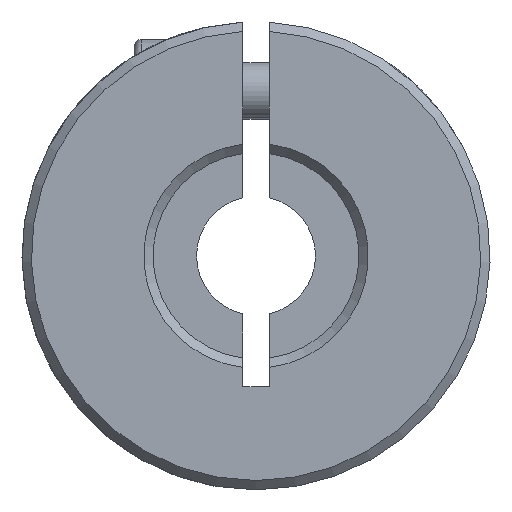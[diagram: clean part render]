
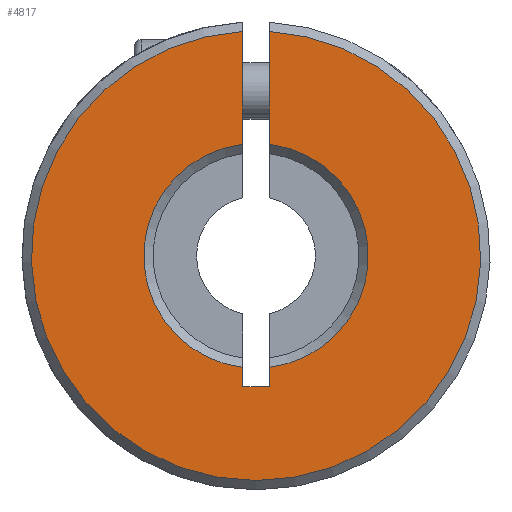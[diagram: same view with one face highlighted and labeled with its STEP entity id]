
A CAD part, front view. The second image highlights one B-rep face of the part: STEP entity #4817.
In plain terms, the highlighted planar face has unit normal (0, -1, 0).
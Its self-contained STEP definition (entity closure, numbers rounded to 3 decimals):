
#116 = CIRCLE ( 'NONE', #288, 6. ) ;
#119 = EDGE_CURVE ( 'NONE', #2894, #5415, #4652, .T. ) ;
#279 = ORIENTED_EDGE ( 'NONE', *, *, #5372, .T. ) ;
#288 = AXIS2_PLACEMENT_3D ( 'NONE', #2408, #2434, #2145 ) ;
#391 = CARTESIAN_POINT ( 'NONE',  ( -0.7, 0.25, 11.98 ) ) ;
#421 = DIRECTION ( 'NONE',  ( 0., 0., 1. ) ) ;
#498 = CARTESIAN_POINT ( 'NONE',  ( 0.7, 0.25, -7. ) ) ;
#532 = AXIS2_PLACEMENT_3D ( 'NONE', #2226, #3056, #1781 ) ;
#543 = PLANE ( 'NONE',  #3974 ) ;
#590 = CARTESIAN_POINT ( 'NONE',  ( 0.7, 0.25, -5.959 ) ) ;
#673 = CARTESIAN_POINT ( 'NONE',  ( 0., 0.25, 0. ) ) ;
#779 = VECTOR ( 'NONE', #2107, 1000. ) ;
#819 = LINE ( 'NONE', #4169, #779 ) ;
#826 = VERTEX_POINT ( 'NONE', #4921 ) ;
#837 = FACE_OUTER_BOUND ( 'NONE', #2410, .T. ) ;
#898 = CARTESIAN_POINT ( 'NONE',  ( 0.7, 0.25, 5.959 ) ) ;
#912 = CARTESIAN_POINT ( 'NONE',  ( 0.7, 0.25, 11.98 ) ) ;
#924 = DIRECTION ( 'NONE',  ( 0., 1., 0. ) ) ;
#978 = VERTEX_POINT ( 'NONE', #2503 ) ;
#993 = EDGE_CURVE ( 'NONE', #3214, #978, #819, .T. ) ;
#1062 = DIRECTION ( 'NONE',  ( 0., 0., 1. ) ) ;
#1146 = VECTOR ( 'NONE', #4321, 1000. ) ;
#1309 = AXIS2_PLACEMENT_3D ( 'NONE', #673, #4826, #1062 ) ;
#1326 = LINE ( 'NONE', #3493, #1146 ) ;
#1417 = VECTOR ( 'NONE', #3863, 1000. ) ;
#1671 = ORIENTED_EDGE ( 'NONE', *, *, #2873, .F. ) ;
#1681 = EDGE_CURVE ( 'NONE', #826, #978, #4558, .T. ) ;
#1772 = ORIENTED_EDGE ( 'NONE', *, *, #2262, .T. ) ;
#1781 = DIRECTION ( 'NONE',  ( 0., 0., 1. ) ) ;
#1838 = VERTEX_POINT ( 'NONE', #912 ) ;
#1915 = VECTOR ( 'NONE', #2570, 1000. ) ;
#2107 = DIRECTION ( 'NONE',  ( 0., 0., -1. ) ) ;
#2111 = ORIENTED_EDGE ( 'NONE', *, *, #1681, .T. ) ;
#2132 = CARTESIAN_POINT ( 'NONE',  ( 12.5, 0.25, -50. ) ) ;
#2145 = DIRECTION ( 'NONE',  ( 0., 0., 1. ) ) ;
#2179 = CARTESIAN_POINT ( 'NONE',  ( 0.7, 0.25, -7. ) ) ;
#2226 = CARTESIAN_POINT ( 'NONE',  ( 0., 0.25, 0. ) ) ;
#2262 = EDGE_CURVE ( 'NONE', #3214, #1838, #3168, .T. ) ;
#2384 = VECTOR ( 'NONE', #421, 1000. ) ;
#2408 = CARTESIAN_POINT ( 'NONE',  ( 0., 0.25, 0. ) ) ;
#2410 = EDGE_LOOP ( 'NONE', ( #5001, #279, #1671, #4146, #4412, #2111, #2872, #1772 ) ) ;
#2434 = DIRECTION ( 'NONE',  ( 0., 1., 0. ) ) ;
#2503 = CARTESIAN_POINT ( 'NONE',  ( -0.7, 0.25, 5.959 ) ) ;
#2563 = VERTEX_POINT ( 'NONE', #898 ) ;
#2570 = DIRECTION ( 'NONE',  ( 1., 0., 0. ) ) ;
#2872 = ORIENTED_EDGE ( 'NONE', *, *, #993, .F. ) ;
#2873 = EDGE_CURVE ( 'NONE', #5415, #2922, #2955, .T. ) ;
#2894 = VERTEX_POINT ( 'NONE', #2933 ) ;
#2906 = CARTESIAN_POINT ( 'NONE',  ( 0.7, 0.25, -7. ) ) ;
#2922 = VERTEX_POINT ( 'NONE', #590 ) ;
#2933 = CARTESIAN_POINT ( 'NONE',  ( -0.7, 0.25, -7. ) ) ;
#2955 = LINE ( 'NONE', #2906, #2384 ) ;
#3033 = EDGE_CURVE ( 'NONE', #2563, #1838, #4353, .T. ) ;
#3056 = DIRECTION ( 'NONE',  ( 0., -1., 0. ) ) ;
#3168 = CIRCLE ( 'NONE', #532, 12. ) ;
#3214 = VERTEX_POINT ( 'NONE', #391 ) ;
#3326 = EDGE_CURVE ( 'NONE', #826, #2894, #1326, .T. ) ;
#3493 = CARTESIAN_POINT ( 'NONE',  ( -0.7, 0.25, -7. ) ) ;
#3863 = DIRECTION ( 'NONE',  ( 0., 0., 1. ) ) ;
#3974 = AXIS2_PLACEMENT_3D ( 'NONE', #2132, #924, #4276 ) ;
#4146 = ORIENTED_EDGE ( 'NONE', *, *, #119, .F. ) ;
#4169 = CARTESIAN_POINT ( 'NONE',  ( -0.7, 0.25, -7. ) ) ;
#4211 = CARTESIAN_POINT ( 'NONE',  ( 0.7, 0.25, -7. ) ) ;
#4276 = DIRECTION ( 'NONE',  ( 0., 0., 1. ) ) ;
#4321 = DIRECTION ( 'NONE',  ( 0., 0., -1. ) ) ;
#4353 = LINE ( 'NONE', #2179, #1417 ) ;
#4412 = ORIENTED_EDGE ( 'NONE', *, *, #3326, .F. ) ;
#4558 = CIRCLE ( 'NONE', #1309, 6. ) ;
#4652 = LINE ( 'NONE', #4211, #1915 ) ;
#4817 = ADVANCED_FACE ( 'NONE', ( #837 ), #543, .F. ) ;
#4826 = DIRECTION ( 'NONE',  ( 0., 1., 0. ) ) ;
#4921 = CARTESIAN_POINT ( 'NONE',  ( -0.7, 0.25, -5.959 ) ) ;
#5001 = ORIENTED_EDGE ( 'NONE', *, *, #3033, .F. ) ;
#5372 = EDGE_CURVE ( 'NONE', #2563, #2922, #116, .T. ) ;
#5415 = VERTEX_POINT ( 'NONE', #498 ) ;
